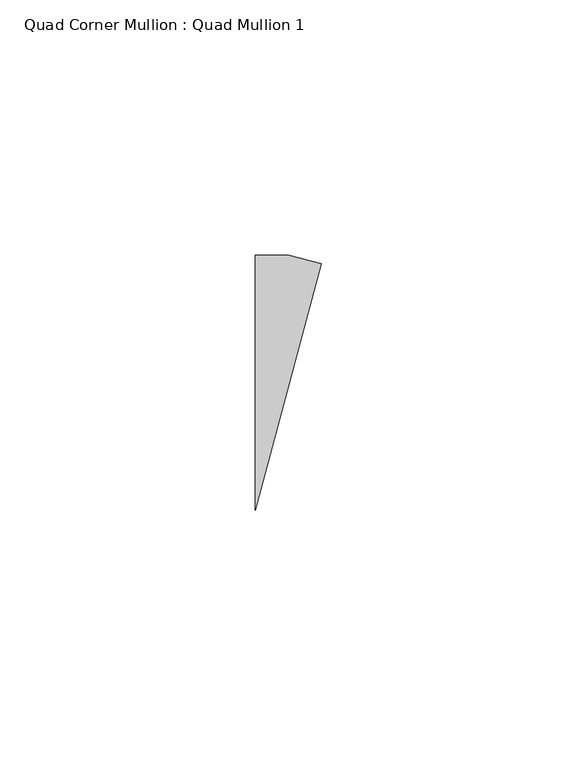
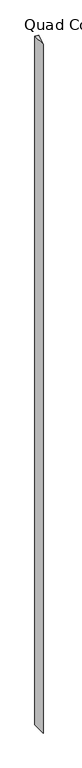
"""IFC4 building model written with IfcOpenShell, lengths in millimetres: member geometry, Quad Corner Mullion : Quad Mullion 1."""

import ifcopenshell
import ifcopenshell.guid

model = None  # the IFC model being written
_history = None  # IfcOwnerHistory: only IFC2X3 demands one
_inside = {}  # id of a spatial element -> (the spatial element, [elements in it])
_under = {}  # id of a project, library or spatial element -> (it, [spatial elements below it])
_declared = {}  # id of a project -> (the project, [libraries it declares])
_typed = {}  # id of a type object -> (the type object, [elements of that type])
_made_of = {}  # id of a material, layer set ... -> (it, [elements and type objects made of it])


def new_model(schema):
    """Start an empty IFC model of exactly this schema.

    Asked for "IFC4X3", IfcOpenShell would pick the latest addendum, in which some entities
    have other attributes; the version numbers below select the first issue.
    IFC2X3 requires an IfcOwnerHistory on every rooted entity: one is made here for all.
    """
    global model, _history
    if schema == "IFC4X3":
        model = ifcopenshell.file(schema_version=(4, 3, 0, 0))
    else:
        model = ifcopenshell.file(schema=schema)
    _inside.clear()
    _under.clear()
    _declared.clear()
    _typed.clear()
    _made_of.clear()
    _history = None
    if model.schema == "IFC2X3":
        org = make("IfcOrganization", Name="unknown")
        user = make(
            "IfcPersonAndOrganization",
            ThePerson=make("IfcPerson", FamilyName="unknown"),
            TheOrganization=org,
        )
        app = make(
            "IfcApplication",
            ApplicationDeveloper=org,
            Version="unknown",
            ApplicationFullName="unknown",
            ApplicationIdentifier="unknown",
        )
        _history = make(
            "IfcOwnerHistory",
            OwningUser=user,
            OwningApplication=app,
            ChangeAction="ADDED",
            CreationDate=0,
        )
    return model


def make(cls, **values):
    """One entity of the class cls with the attributes given. An attribute that is None is left unset."""
    return model.create_entity(
        cls, **{name: value for name, value in values.items() if value is not None}
    )


def rooted(cls, **values):
    """An entity with a GlobalId (a new one), such as an element, a storey or a relation."""
    return make(cls, GlobalId=ifcopenshell.guid.new(), OwnerHistory=_history, **values)


def si_unit(unit_type, name, prefix=None):
    """IfcSIUnit, for example si_unit("LENGTHUNIT", "METRE", prefix="MILLI")."""
    return make("IfcSIUnit", UnitType=unit_type, Prefix=prefix, Name=name)


def assignment(units):
    """IfcUnitAssignment: the units of a project."""
    return None if units is None else make("IfcUnitAssignment", Units=units)


def point(xyz):
    """IfcCartesianPoint."""
    return None if xyz is None else make("IfcCartesianPoint", Coordinates=xyz)


def direction(xyz):
    """IfcDirection."""
    return None if xyz is None else make("IfcDirection", DirectionRatios=xyz)


def frame(location, z_axis=None, x_axis=None):
    """IfcAxis2Placement3D, a coordinate frame: its origin and axes. An axis left out is left unset."""
    return make(
        "IfcAxis2Placement3D",
        Location=point(location),
        Axis=direction(z_axis),
        RefDirection=direction(x_axis),
    )


def origin():
    """The frame at (0, 0, 0) with its axes left unset."""
    return frame((0.0, 0.0, 0.0))


def place(relative_to, where):
    """IfcLocalPlacement: puts the frame where relative to a parent placement (None: the world)."""
    return make(
        "IfcLocalPlacement", PlacementRelTo=relative_to, RelativePlacement=where
    )


def context(
    kind, dimensions, precision=None, world=None, true_north=None, identifier=None
):
    """IfcGeometricRepresentationContext, for example the 3D "Model" context."""
    return make(
        "IfcGeometricRepresentationContext",
        ContextIdentifier=identifier,
        ContextType=kind,
        CoordinateSpaceDimension=dimensions,
        Precision=precision,
        WorldCoordinateSystem=world,
        TrueNorth=true_north,
    )


def project(units=None, contexts=None):
    """IfcProject with its units and contexts."""
    return rooted(
        "IfcProject",
        Name="project",
        RepresentationContexts=contexts,
        UnitsInContext=assignment(units),
    )


def spatial(cls, under=None, at=None, **own):
    """A site, building, storey or space (cls), placed at a placement, below another one or the project."""
    s = rooted(cls, ObjectPlacement=at, **own)
    if under is not None:
        _under.setdefault(under.id(), (under, []))[1].append(s)
    return s


def polyline(points):
    """IfcPolyline through the points."""
    return make("IfcPolyline", Points=[point(p) for p in points])


def outline(outer, holes=None, kind="AREA"):
    """IfcArbitraryClosedProfileDef: a profile drawn as a closed curve; with holes, ...WithVoids."""
    if holes is None:
        return make("IfcArbitraryClosedProfileDef", ProfileType=kind, OuterCurve=outer)
    return make(
        "IfcArbitraryProfileDefWithVoids",
        ProfileType=kind,
        OuterCurve=outer,
        InnerCurves=holes,
    )


def extrude(swept, where, along, depth):
    """IfcExtrudedAreaSolid: the profile swept, set in the frame where, extruded along a direction by depth."""
    return make(
        "IfcExtrudedAreaSolid",
        SweptArea=swept,
        Position=where,
        ExtrudedDirection=direction(along),
        Depth=depth,
    )


def shape(context_of_items, identifier, shape_type, items):
    """IfcShapeRepresentation: the items that make up one representation, for example the "Body"."""
    return make(
        "IfcShapeRepresentation",
        ContextOfItems=context_of_items,
        RepresentationIdentifier=identifier,
        RepresentationType=shape_type,
        Items=items,
    )


def source(mapping_origin, context_of_items, identifier, shape_type, items):
    """IfcRepresentationMap: a shape defined once, which mapped items show again and again."""
    return make(
        "IfcRepresentationMap",
        MappingOrigin=mapping_origin,
        MappedRepresentation=shape(context_of_items, identifier, shape_type, items),
    )


def transform(
    local_origin,
    x_axis=None,
    y_axis=None,
    z_axis=None,
    scale=None,
    scale2=None,
    scale3=None,
    uniform=True,
):
    """IfcCartesianTransformationOperator3D, or its non-uniform kind. x_axis, y_axis, z_axis: its Axis1, 2, 3."""
    if uniform:
        return make(
            "IfcCartesianTransformationOperator3D",
            Axis1=direction(x_axis),
            Axis2=direction(y_axis),
            LocalOrigin=point(local_origin),
            Scale=scale,
            Axis3=direction(z_axis),
        )
    return make(
        "IfcCartesianTransformationOperator3DnonUniform",
        Axis1=direction(x_axis),
        Axis2=direction(y_axis),
        LocalOrigin=point(local_origin),
        Scale=scale,
        Axis3=direction(z_axis),
        Scale2=scale2,
        Scale3=scale3,
    )


def mapped(mapping_source, mapping_target):
    """IfcMappedItem: shows the shape of a source again, moved by a transform."""
    return make(
        "IfcMappedItem", MappingSource=mapping_source, MappingTarget=mapping_target
    )


def made_of(thing, what):
    """Note that an element or type object is made of a material, layer set ...; save() writes the relation."""
    if what is not None:
        _made_of.setdefault(what.id(), (what, []))[1].append(thing)
    return thing


def element(
    cls,
    number,
    at=None,
    inside=None,
    cuts=None,
    type_object=None,
    material=None,
    context=None,
    identifier="Body",
    shape_type=None,
    held_by="IfcProductDefinitionShape",
    body=None,
    shapes=None,
    **own,
):
    """One element of the class cls, such as IfcWall. Its Tag is "e" and its number.

    at: its placement. inside: the storey or other place that contains it. cuts: it is an
    opening in that element (IfcRelVoidsElement). A single representation is given by context,
    identifier, shape_type and body (its items); several are given by shapes. held_by: the class
    of the entity that holds the representations. save() writes the other relations.
    """
    e = rooted(cls, Tag="e%d" % number, ObjectPlacement=at, **own)
    if body is not None:
        shapes = [shape(context, identifier, shape_type, body)]
    if shapes is not None:
        e.Representation = make(held_by, Representations=shapes)
    if inside is not None:
        _inside.setdefault(inside.id(), (inside, []))[1].append(e)
    if cuts is not None:
        rooted(
            "IfcRelVoidsElement", RelatingBuildingElement=cuts, RelatedOpeningElement=e
        )
    if type_object is not None:
        _typed.setdefault(type_object.id(), (type_object, []))[1].append(e)
    return made_of(e, material)


def aggregate(whole, parts):
    """IfcRelAggregates: a whole, such as a stair, and the parts it consists of."""
    return rooted("IfcRelAggregates", RelatingObject=whole, RelatedObjects=parts)


def save(model, path):
    """Write the relations noted so far, then the file.

    IfcRelAggregates (storeys below a building ...), IfcRelContainedInSpatialStructure (elements
    in a storey), IfcRelDefinesByType, IfcRelAssociatesMaterial and IfcRelDeclares: one each for
    every whole, place, type object, material and project.
    """
    for whole, parts in _under.values():
        aggregate(whole, parts)
    for where, things in _inside.values():
        rooted(
            "IfcRelContainedInSpatialStructure",
            RelatedElements=things,
            RelatingStructure=where,
        )
    for kind, things in _typed.values():
        rooted("IfcRelDefinesByType", RelatedObjects=things, RelatingType=kind)
    for what, things in _made_of.values():
        rooted("IfcRelAssociatesMaterial", RelatedObjects=things, RelatingMaterial=what)
    for by, libraries in _declared.values():
        rooted("IfcRelDeclares", RelatingContext=by, RelatedDefinitions=libraries)
    model.write(path)


def quad_corner_mullion_quad_mullion_1_6bc0adc9(model_context):
    return source(origin(), model_context, "Body", "SweptSolid", [
        extrude(outline(polyline([(9.6531963, 23.2949975), (-3.2925836, -25.0), (-3.2925836, 25.0), (3.2925836, 25.0), (9.6531963, 23.2949975)])), frame((0.0, 0.0, -2525.2867528), z_axis=(0.0, 0.0, 1.0), x_axis=(1.0, 0.0, 0.0)), (0.0, 0.0, 1.0), 2525.2867528),
    ])


if __name__ == "__main__":
    model = new_model("IFC4")
    model_context = context("Model", 3, world=origin())
    ifc_project = project(units=[si_unit("LENGTHUNIT", "METRE", prefix="MILLI")], contexts=[model_context])
    site = spatial("IfcSite", under=ifc_project)
    building = spatial("IfcBuilding", under=site)
    placement = place(None, origin())
    quad_corner_mullion_quad_mullion_1_shape = quad_corner_mullion_quad_mullion_1_6bc0adc9(model_context)
    element("IfcMember", 1, ObjectType="Quad Corner Mullion : Quad Mullion 1", at=placement, inside=building, context=model_context, shape_type="MappedRepresentation", body=[
        mapped(quad_corner_mullion_quad_mullion_1_shape, transform((0.0, 0.0, 0.0), x_axis=(1.0, 0.0, 0.0), y_axis=(0.0, 1.0, 0.0), z_axis=(0.0, 0.0, 1.0))),
    ])
    save(model, "model.ifc")
